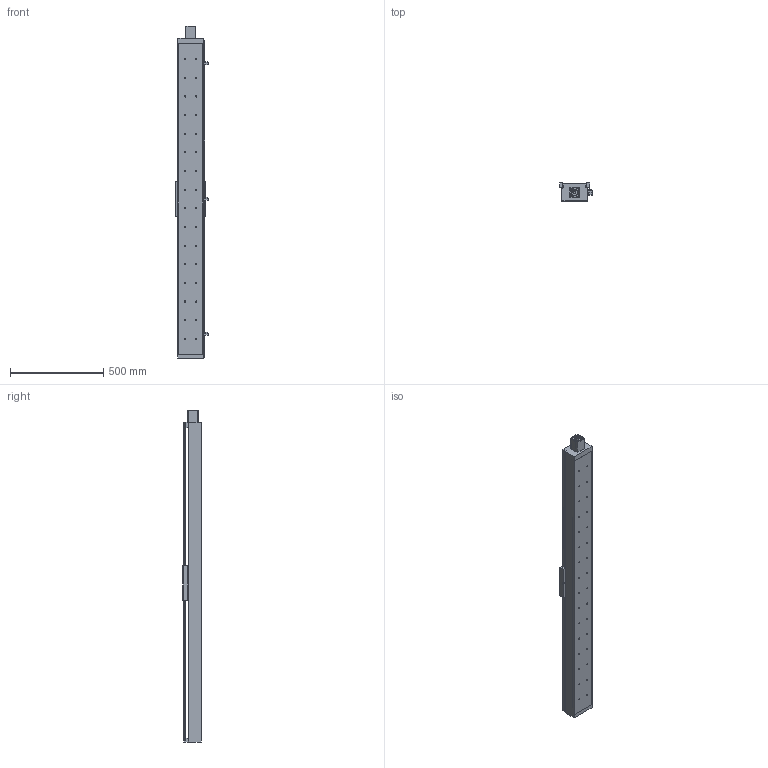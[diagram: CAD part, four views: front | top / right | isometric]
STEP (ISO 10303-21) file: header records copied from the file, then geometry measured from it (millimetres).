
FILE_DESCRIPTION((''),'2;1');
FILE_NAME('E:\libraries\UIA actuator library 2009\standard actuator\UIA136 ball screw 25\UIA136R15NDC-_ _ _-R25_ _, stp file 27Apr16\UIA136R15NDC-1450-R25_ _-M60-P13-C10-S.stp','2016-04-28T17:39:29',('h029'),(''),'Autodesk Inventor 11','Autodesk Inventor 11','');
FILE_SCHEMA(('AUTOMOTIVE_DESIGN { 1 0 10303 214 1 1 1 1 }'));
Length unit declared in the file: millimetre
Products named in the file (10): UIA136R15NDC-1450; UIA136R15NDC-body; motor mount F60; SOH-32C; SOH-32C-3; SOH-32C-1; SOH-32C-2; Carriage; Sensor Switch; sensor rail
Assembly tree (9 placements, depth 3):
  UIA136R15NDC-1450
    UIA136R15NDC-body
    motor mount F60
    SOH-32C
      SOH-32C-3
      SOH-32C-1
      SOH-32C-2
    Carriage
    Sensor Switch
    sensor rail
Bounding box: 174.5 x 98 x 1780 mm (x, y, z)
Volume: 6294537.4 mm3; surface area: 1806336.6 mm2
Topology: 8 solids, 8 shells, 556 faces, 1439 edges, 942 vertices
Faces by surface type: plane 324, bspline 182, cylinder 46, cone 4
Full cylindrical faces by diameter (mm): 2.459 x2, 3.242 x2, 4.5 x2, 7 x4, 7.5 x2, 14 x3, 17 x1, 32 x3, 37 x1, 50.3 x1, 50.5 x1
Entity records: 18180 total; most frequent: CARTESIAN_POINT 5492, ORIENTED_EDGE 2424, DIRECTION 2378, EDGE_CURVE 1212, EDGE_LOOP 880, VERTEX_POINT 878, VECTOR 816, LINE 816
